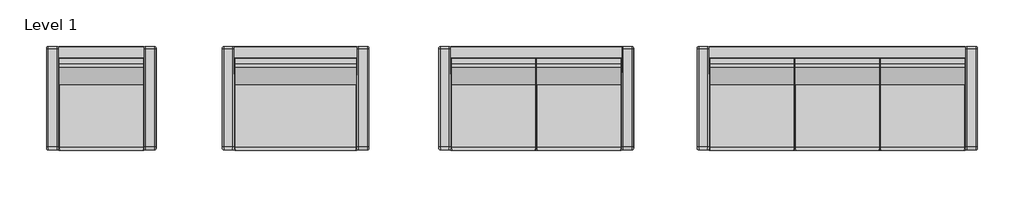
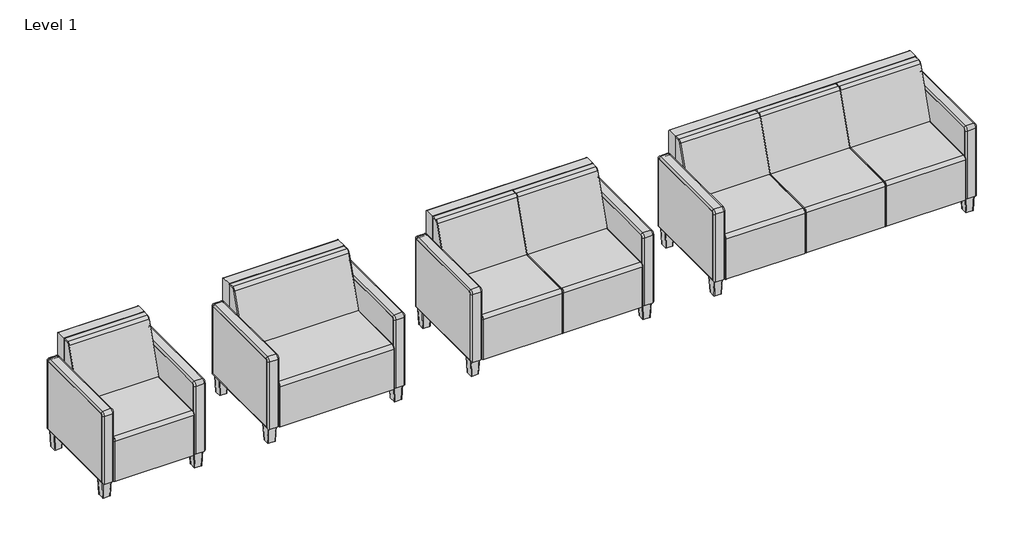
# One storey: 4 furniture elements.
"""IFC4 building model written with IfcOpenShell, lengths in millimetres."""

from ifc_helpers import new_model, si_unit, origin, place, context, project, spatial, transform, mapped, element, save
from components import cal123ml_89b00feb, cal133ml_7f80ab68, cal223ml_52b3e110, cal223ml_a5ffef99, cal323ml_00ee40da, cal323ml_525b75bf

model = new_model("IFC4")

# Units and contexts
model_context = context("Model", 3, world=origin())
ifc_project = project(units=[si_unit("LENGTHUNIT", "METRE", prefix="MILLI")], contexts=[model_context])

# Site, building, storey
site = spatial("IfcSite", under=ifc_project)
building = spatial("IfcBuilding", under=site)
storey = spatial("IfcBuildingStorey", under=building, Name="Level 1", Elevation=0.0)

# Furniture
placement = place(None, origin())
cal123ml_shape = cal123ml_89b00feb(model_context)
element("IfcFurniture", 1, ObjectType="Stance_Healthacare-Carlson-Arm_Chair : CAL123ML", at=placement, inside=storey, context=model_context, shape_type="MappedRepresentation", body=[
    mapped(cal123ml_shape, transform((-14369.7647139, -700.1692447, 0.0), x_axis=(1.0, 0.0, 0.0), y_axis=(0.0, 1.0, 0.0), z_axis=(0.0, 0.0, 1.0))),
])
cal133ml_shape = cal133ml_7f80ab68(model_context)
element("IfcFurniture", 2, ObjectType="Stance_Healthacare-Carlson-Arm_Chair : CAL133ML", at=placement, inside=storey, context=model_context, shape_type="MappedRepresentation", body=[
    mapped(cal133ml_shape, transform((-13040.3133104, -700.1692447, 0.0), x_axis=(1.0, 0.0, 0.0), y_axis=(0.0, 1.0, 0.0), z_axis=(0.0, 0.0, 1.0))),
])
cal223ml_shape = cal223ml_52b3e110(model_context)
cal223ml_2_shape = cal223ml_a5ffef99(model_context)
element("IfcFurniture", 3, ObjectType="Stance_Healthacare-Carlson-Arm_Chair : CAL223ML", at=placement, inside=storey, context=model_context, shape_type="MappedRepresentation", body=[
    mapped(cal223ml_shape, transform((-11394.4158394, -700.1692447, 0.0), x_axis=(1.0, 0.0, 0.0), y_axis=(0.0, 1.0, 0.0), z_axis=(0.0, 0.0, 1.0))),
    mapped(cal223ml_2_shape, transform((-11394.4158394, -700.1692447, 0.0), x_axis=(1.0, 0.0, 0.0), y_axis=(0.0, 1.0, 0.0), z_axis=(0.0, 0.0, 1.0))),
])
cal323ml_shape = cal323ml_00ee40da(model_context)
cal323ml_2_shape = cal323ml_525b75bf(model_context)
element("IfcFurniture", 4, ObjectType="Stance_Healthacare-Carlson-Arm_Chair : CAL323ML", at=placement, inside=storey, context=model_context, shape_type="MappedRepresentation", body=[
    mapped(cal323ml_shape, transform((-9333.8040449, -700.1692447, 0.0), x_axis=(1.0, 0.0, 0.0), y_axis=(0.0, 1.0, 0.0), z_axis=(0.0, 0.0, 1.0))),
    mapped(cal323ml_2_shape, transform((-9333.8040449, -700.1692447, 0.0), x_axis=(1.0, 0.0, 0.0), y_axis=(0.0, 1.0, 0.0), z_axis=(0.0, 0.0, 1.0))),
])

save(model, "model.ifc")
